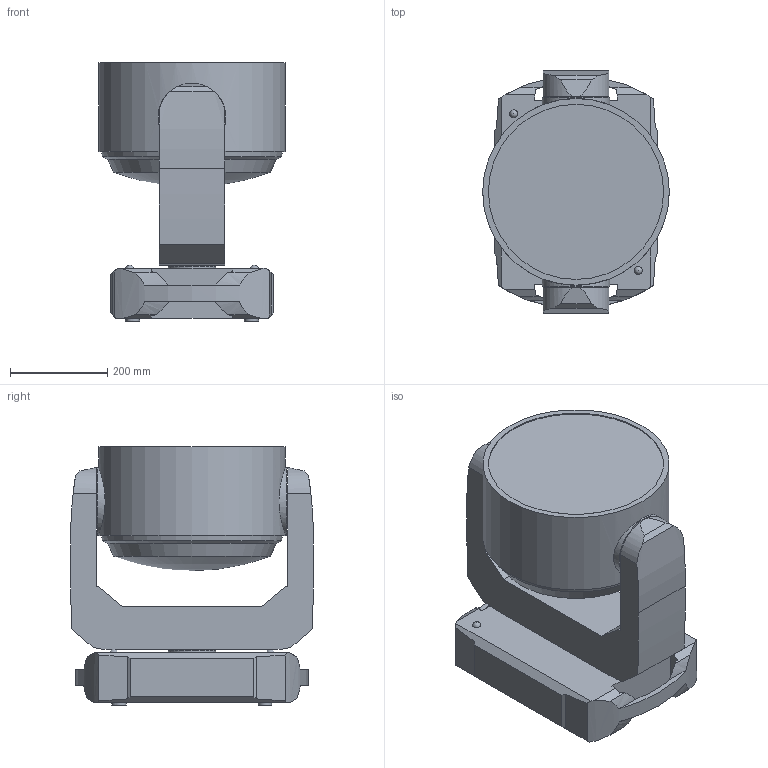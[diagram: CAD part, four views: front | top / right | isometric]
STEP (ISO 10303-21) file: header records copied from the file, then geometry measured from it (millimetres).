
FILE_DESCRIPTION(/* description */ ('Unknown'),/* implementation_level */ '2;1');
FILE_NAME(/* name */ '3D Robin Arianne 12',/* time_stamp */ '2026-07-13T09:11:14+02:00',/* author */ ('Unknown'),/* organization */ ('Unknown'),/* preprocessor_version */ 'ST-DEVELOPER v20',/* originating_system */ 'Solid Edge',/* authorisation */ 'Unknown');
FILE_SCHEMA (('AUTOMOTIVE_DESIGN {1 0 10303 214 3 1 1}'));
Length unit declared in the file: millimetre
Products named in the file (4): 3D Robin Arianne 12; A12-Arm; A12-Head; iForte-Base
Assembly tree (3 placements, depth 2):
  3D Robin Arianne 12
    A12-Arm
    A12-Head
    iForte-Base
Bounding box: 383.73 x 499.44 x 532 mm (x, y, z)
Volume: 50089616.5 mm3; surface area: 1412394.3 mm2
Topology: 3 solids, 3 shells, 106 faces, 286 edges, 191 vertices
Faces by surface type: plane 58, cylinder 33, bspline 8, cone 4, torus 2, sphere 1
Full cylindrical faces by diameter (mm): 22 x1, 27.261 x2, 29.966 x2, 45 x2, 97.471 x1, 98 x1, 139.399 x2, 360 x1, 383.728 x1
Entity records: 3489 total; most frequent: CARTESIAN_POINT 878, ORIENTED_EDGE 508, DIRECTION 502, EDGE_CURVE 254, AXIS2_PLACEMENT_3D 184, VERTEX_POINT 182, FACE_BOUND 140, EDGE_LOOP 138
